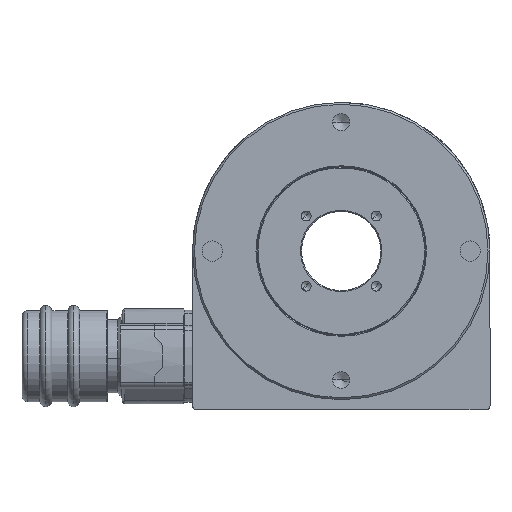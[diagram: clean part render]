
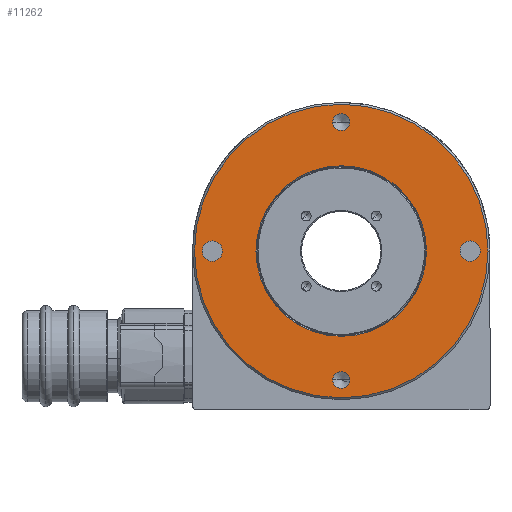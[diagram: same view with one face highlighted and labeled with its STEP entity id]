
A CAD part, front view. The second image highlights one B-rep face of the part: STEP entity #11262.
In plain terms, the highlighted planar face has unit normal (0, -1, 0).
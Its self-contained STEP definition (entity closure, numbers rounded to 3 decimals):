
#994 = CARTESIAN_POINT ( 'NONE',  ( -65., 0., 0. ) ) ;
#1066 = AXIS2_PLACEMENT_3D ( 'NONE', #19803, #52850, #24579 ) ;
#2017 = EDGE_CURVE ( 'NONE', #56769, #41506, #59675, .T. ) ;
#2222 = EDGE_CURVE ( 'NONE', #14775, #37295, #49345, .T. ) ;
#2673 = CARTESIAN_POINT ( 'NONE',  ( 0., 0., -65. ) ) ;
#2725 = FACE_BOUND ( 'NONE', #52542, .T. ) ;
#2896 = AXIS2_PLACEMENT_3D ( 'NONE', #56206, #27939, #60947 ) ;
#2953 = DIRECTION ( 'NONE',  ( 1., 0., 0. ) ) ;
#3187 = CARTESIAN_POINT ( 'NONE',  ( 70.1, 0., 0. ) ) ;
#3481 = DIRECTION ( 'NONE',  ( 1., 0., 0. ) ) ;
#3822 = ORIENTED_EDGE ( 'NONE', *, *, #39498, .F. ) ;
#3900 = DIRECTION ( 'NONE',  ( -1., 0., 0. ) ) ;
#4126 = ORIENTED_EDGE ( 'NONE', *, *, #23600, .T. ) ;
#4874 = EDGE_LOOP ( 'NONE', ( #32188, #21215 ) ) ;
#5117 = EDGE_CURVE ( 'NONE', #43591, #18185, #33414, .T. ) ;
#5729 = CIRCLE ( 'NONE', #41669, 4.25 ) ;
#5748 = DIRECTION ( 'NONE',  ( -1., 0., 0. ) ) ;
#6250 = AXIS2_PLACEMENT_3D ( 'NONE', #45395, #17020, #50115 ) ;
#7433 = DIRECTION ( 'NONE',  ( -1., 0., 0. ) ) ;
#7547 = CARTESIAN_POINT ( 'NONE',  ( -59.9, 0., 0. ) ) ;
#8720 = ORIENTED_EDGE ( 'NONE', *, *, #9634, .F. ) ;
#9634 = EDGE_CURVE ( 'NONE', #25761, #48936, #57260, .T. ) ;
#11157 = CARTESIAN_POINT ( 'NONE',  ( -74., 0., 0. ) ) ;
#11262 = ADVANCED_FACE ( 'NONE', ( #24948, #50110, #15281, #2725, #61157, #48630 ), #60111, .F. ) ;
#13294 = CIRCLE ( 'NONE', #30167, 43. ) ;
#13488 = CARTESIAN_POINT ( 'NONE',  ( 59.9, 0., 0. ) ) ;
#14185 = CARTESIAN_POINT ( 'NONE',  ( 65., 0., 0. ) ) ;
#14775 = VERTEX_POINT ( 'NONE', #7547 ) ;
#14843 = CIRCLE ( 'NONE', #30139, 4.25 ) ;
#15281 = FACE_BOUND ( 'NONE', #40771, .T. ) ;
#16380 = CARTESIAN_POINT ( 'NONE',  ( -4.25, 0., -65. ) ) ;
#17020 = DIRECTION ( 'NONE',  ( 0., -1., 0. ) ) ;
#17103 = VERTEX_POINT ( 'NONE', #38634 ) ;
#17751 = ORIENTED_EDGE ( 'NONE', *, *, #18380, .F. ) ;
#18185 = VERTEX_POINT ( 'NONE', #34441 ) ;
#18380 = EDGE_CURVE ( 'NONE', #37295, #14775, #50531, .T. ) ;
#18534 = CARTESIAN_POINT ( 'NONE',  ( 0., 0., 0. ) ) ;
#18942 = DIRECTION ( 'NONE',  ( -1., 0., 0. ) ) ;
#19139 = CARTESIAN_POINT ( 'NONE',  ( 74., 0., 0. ) ) ;
#19177 = CARTESIAN_POINT ( 'NONE',  ( 4.25, 0., 65. ) ) ;
#19684 = EDGE_CURVE ( 'NONE', #39000, #17103, #14843, .T. ) ;
#19803 = CARTESIAN_POINT ( 'NONE',  ( 65., 0., 0. ) ) ;
#21215 = ORIENTED_EDGE ( 'NONE', *, *, #48172, .T. ) ;
#22741 = AXIS2_PLACEMENT_3D ( 'NONE', #14185, #47315, #18942 ) ;
#22809 = AXIS2_PLACEMENT_3D ( 'NONE', #26030, #59065, #30786 ) ;
#23136 = CARTESIAN_POINT ( 'NONE',  ( -43., 0., 0. ) ) ;
#23311 = DIRECTION ( 'NONE',  ( 1., 0., 0. ) ) ;
#23600 = EDGE_CURVE ( 'NONE', #24141, #29586, #44212, .T. ) ;
#23890 = CARTESIAN_POINT ( 'NONE',  ( -70.1, 0., 0. ) ) ;
#24090 = EDGE_CURVE ( 'NONE', #41506, #56769, #26385, .T. ) ;
#24141 = VERTEX_POINT ( 'NONE', #19139 ) ;
#24579 = DIRECTION ( 'NONE',  ( -1., 0., 0. ) ) ;
#24948 = FACE_BOUND ( 'NONE', #4874, .T. ) ;
#25101 = DIRECTION ( 'NONE',  ( 0., -1., 0. ) ) ;
#25761 = VERTEX_POINT ( 'NONE', #40531 ) ;
#26030 = CARTESIAN_POINT ( 'NONE',  ( 0., 0., 65. ) ) ;
#26127 = CIRCLE ( 'NONE', #46723, 74. ) ;
#26385 = CIRCLE ( 'NONE', #22741, 5.1 ) ;
#27939 = DIRECTION ( 'NONE',  ( 0., -1., 0. ) ) ;
#28265 = DIRECTION ( 'NONE',  ( 0., -1., 0. ) ) ;
#29358 = AXIS2_PLACEMENT_3D ( 'NONE', #18534, #51637, #23311 ) ;
#29586 = VERTEX_POINT ( 'NONE', #11157 ) ;
#29666 = AXIS2_PLACEMENT_3D ( 'NONE', #60561, #32282, #3900 ) ;
#30139 = AXIS2_PLACEMENT_3D ( 'NONE', #56530, #28265, #61274 ) ;
#30167 = AXIS2_PLACEMENT_3D ( 'NONE', #59590, #31324, #2953 ) ;
#30786 = DIRECTION ( 'NONE',  ( -1., 0., 0. ) ) ;
#30821 = EDGE_LOOP ( 'NONE', ( #17751, #36393 ) ) ;
#31287 = EDGE_LOOP ( 'NONE', ( #4126, #48013 ) ) ;
#31324 = DIRECTION ( 'NONE',  ( 0., 1., 0. ) ) ;
#31857 = DIRECTION ( 'NONE',  ( 0., 1., 0. ) ) ;
#32188 = ORIENTED_EDGE ( 'NONE', *, *, #5117, .T. ) ;
#32282 = DIRECTION ( 'NONE',  ( 0., -1., 0. ) ) ;
#33414 = CIRCLE ( 'NONE', #29358, 43. ) ;
#34124 = DIRECTION ( 'NONE',  ( 0., -1., 0. ) ) ;
#34441 = CARTESIAN_POINT ( 'NONE',  ( 43., 0., 0. ) ) ;
#35833 = DIRECTION ( 'NONE',  ( 0., -1., 0. ) ) ;
#36393 = ORIENTED_EDGE ( 'NONE', *, *, #2222, .F. ) ;
#37295 = VERTEX_POINT ( 'NONE', #23890 ) ;
#37498 = ORIENTED_EDGE ( 'NONE', *, *, #57282, .F. ) ;
#38124 = ORIENTED_EDGE ( 'NONE', *, *, #24090, .F. ) ;
#38634 = CARTESIAN_POINT ( 'NONE',  ( 4.25, 0., -65. ) ) ;
#39000 = VERTEX_POINT ( 'NONE', #16380 ) ;
#39498 = EDGE_CURVE ( 'NONE', #17103, #39000, #5729, .T. ) ;
#40531 = CARTESIAN_POINT ( 'NONE',  ( -4.25, 0., 65. ) ) ;
#40771 = EDGE_LOOP ( 'NONE', ( #8720, #37498 ) ) ;
#41506 = VERTEX_POINT ( 'NONE', #3187 ) ;
#41669 = AXIS2_PLACEMENT_3D ( 'NONE', #2673, #35833, #7433 ) ;
#43591 = VERTEX_POINT ( 'NONE', #23136 ) ;
#44212 = CIRCLE ( 'NONE', #2896, 74. ) ;
#45395 = CARTESIAN_POINT ( 'NONE',  ( -65., 0., 0. ) ) ;
#45558 = ORIENTED_EDGE ( 'NONE', *, *, #2017, .F. ) ;
#45631 = AXIS2_PLACEMENT_3D ( 'NONE', #45920, #31857, #3481 ) ;
#45920 = CARTESIAN_POINT ( 'NONE',  ( 0., 0., 0. ) ) ;
#46361 = EDGE_CURVE ( 'NONE', #29586, #24141, #26127, .T. ) ;
#46723 = AXIS2_PLACEMENT_3D ( 'NONE', #53375, #25101, #58147 ) ;
#47315 = DIRECTION ( 'NONE',  ( 0., -1., 0. ) ) ;
#48013 = ORIENTED_EDGE ( 'NONE', *, *, #46361, .T. ) ;
#48172 = EDGE_CURVE ( 'NONE', #18185, #43591, #13294, .T. ) ;
#48630 = FACE_BOUND ( 'NONE', #30821, .T. ) ;
#48936 = VERTEX_POINT ( 'NONE', #19177 ) ;
#49345 = CIRCLE ( 'NONE', #61260, 5.1 ) ;
#50110 = FACE_OUTER_BOUND ( 'NONE', #31287, .T. ) ;
#50115 = DIRECTION ( 'NONE',  ( -1., 0., 0. ) ) ;
#50531 = CIRCLE ( 'NONE', #6250, 5.1 ) ;
#51637 = DIRECTION ( 'NONE',  ( 0., 1., 0. ) ) ;
#52542 = EDGE_LOOP ( 'NONE', ( #58485, #3822 ) ) ;
#52850 = DIRECTION ( 'NONE',  ( 0., -1., 0. ) ) ;
#53375 = CARTESIAN_POINT ( 'NONE',  ( 0., 0., 0. ) ) ;
#53687 = CIRCLE ( 'NONE', #29666, 4.25 ) ;
#56206 = CARTESIAN_POINT ( 'NONE',  ( 0., 0., 0. ) ) ;
#56530 = CARTESIAN_POINT ( 'NONE',  ( 0., 0., -65. ) ) ;
#56769 = VERTEX_POINT ( 'NONE', #13488 ) ;
#57193 = EDGE_LOOP ( 'NONE', ( #45558, #38124 ) ) ;
#57260 = CIRCLE ( 'NONE', #22809, 4.25 ) ;
#57282 = EDGE_CURVE ( 'NONE', #48936, #25761, #53687, .T. ) ;
#58147 = DIRECTION ( 'NONE',  ( 1., 0., 0. ) ) ;
#58485 = ORIENTED_EDGE ( 'NONE', *, *, #19684, .F. ) ;
#59065 = DIRECTION ( 'NONE',  ( 0., -1., 0. ) ) ;
#59590 = CARTESIAN_POINT ( 'NONE',  ( 0., 0., 0. ) ) ;
#59675 = CIRCLE ( 'NONE', #1066, 5.1 ) ;
#60111 = PLANE ( 'NONE',  #45631 ) ;
#60561 = CARTESIAN_POINT ( 'NONE',  ( 0., 0., 65. ) ) ;
#60947 = DIRECTION ( 'NONE',  ( 1., 0., 0. ) ) ;
#61157 = FACE_BOUND ( 'NONE', #57193, .T. ) ;
#61260 = AXIS2_PLACEMENT_3D ( 'NONE', #994, #34124, #5748 ) ;
#61274 = DIRECTION ( 'NONE',  ( -1., 0., 0. ) ) ;
